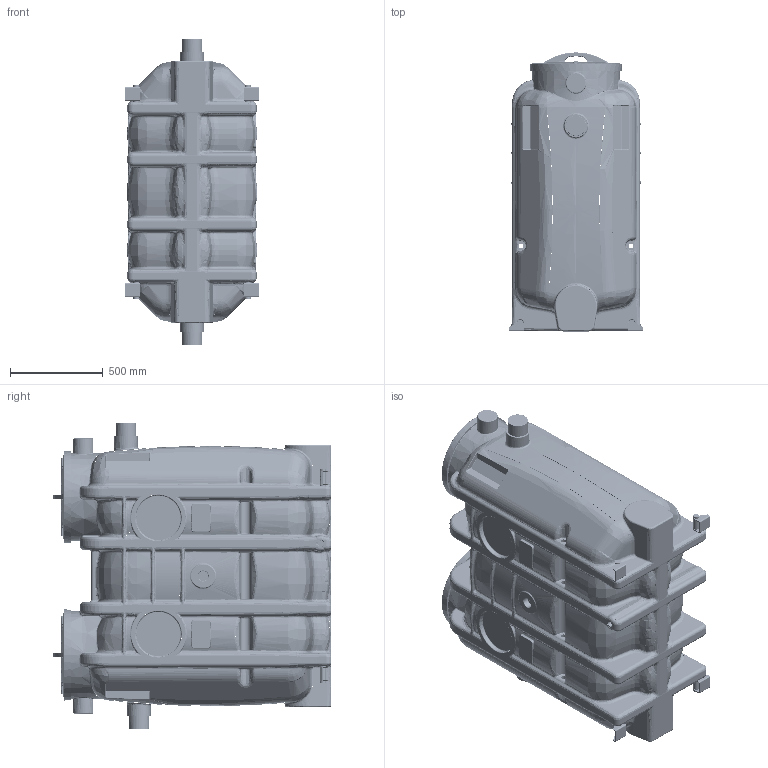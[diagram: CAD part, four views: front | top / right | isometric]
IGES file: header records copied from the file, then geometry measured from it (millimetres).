
Start section: SolidWorks IGES file using analytic representation for surfaces
Global section: file name: G:\Konst\01 Users\MKUMARA\ACO PROJECTS\GREASE SEPARTOR PROJECTS\NS3\PART MODEL\NS3-MODEL\NS3-O-BASIC GREASE SEPARATOR.IGS; native system: SolidWorks 2010; preprocessor: SolidWorks 2010; author: mkumara; date: 101112.074052; units: millimetre
Bounding box: 720 x 1499.98 x 1650 mm (x, y, z)
Surface area: 8080533.9 mm2 (no closed solid volume)
Topology: 0 solids, 0 shells, 2627 faces, 31438 edges, 31401 vertices
Faces by surface type: bspline 1819, revolution 808
